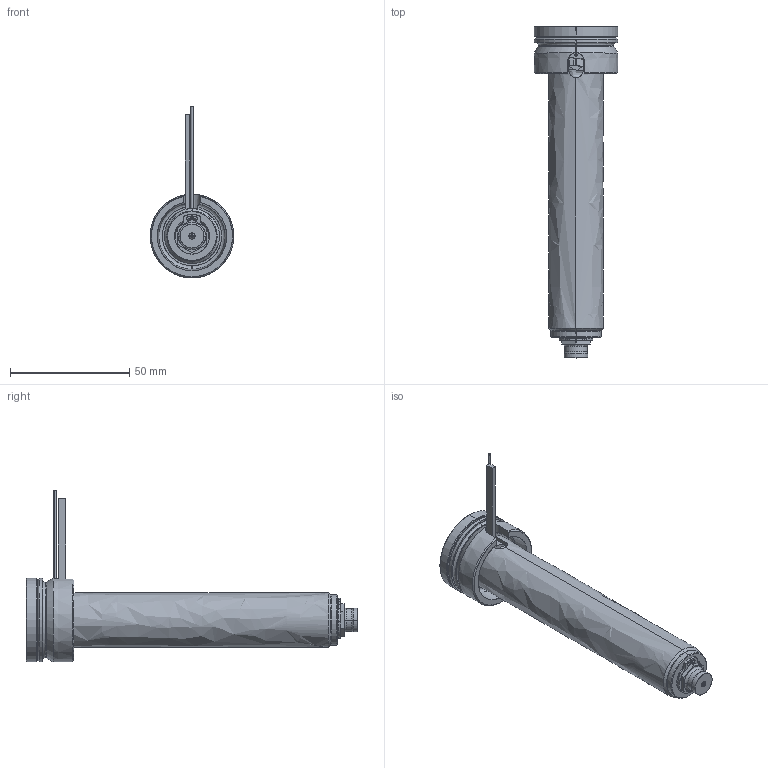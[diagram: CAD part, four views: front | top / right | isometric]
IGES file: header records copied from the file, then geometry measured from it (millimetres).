
Start section: SolidWorks IGES file using analytic representation for surfaces
Global section: file name: C:\Documents and Settings\ws-20\Desktop\TEM\UGEP3153-S-A-0 [Øf-1.10 P-0 ØC-6.0].IGS; native system: SolidWorks 2012; preprocessor: SolidWorks 2012; author: ws-20; date: 120404.080925; units: millimetre
Bounding box: 35 x 139 x 71.9 mm (x, y, z)
Surface area: 27906.5 mm2 (no closed solid volume)
Topology: 0 solids, 0 shells, 132 faces, 2078 edges, 2078 vertices
Faces by surface type: revolution 81, bspline 51
